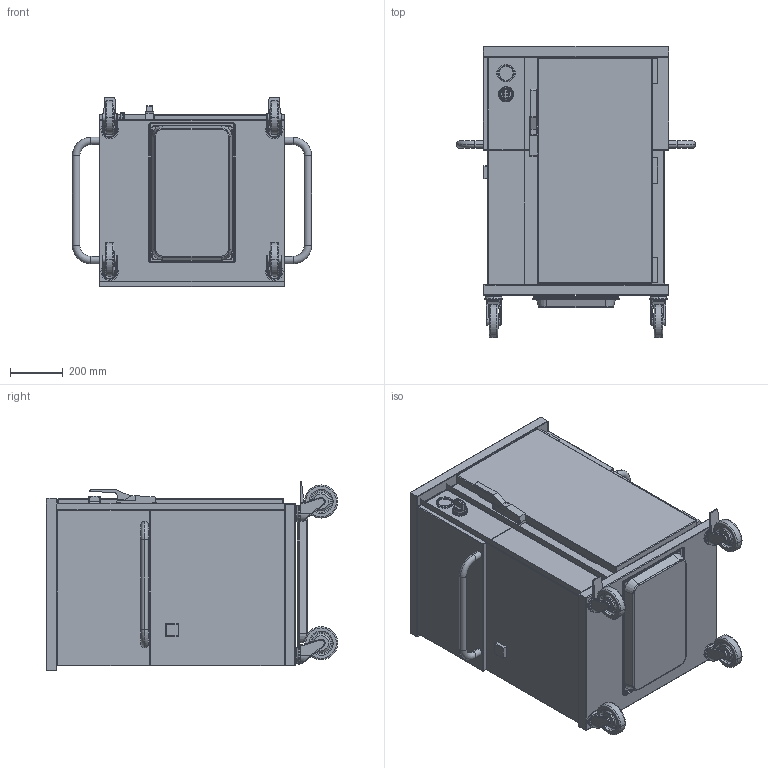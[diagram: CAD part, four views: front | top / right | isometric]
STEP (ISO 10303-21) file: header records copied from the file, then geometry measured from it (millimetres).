
FILE_DESCRIPTION((''),'2;1');
FILE_NAME('CTFE710CTE_EXPORT_STEP_ASM','2019-04-03T11:39:11',('r.avril'),(''),'CREO PARAMETRIC BY PTC INC, 2017260','CREO PARAMETRIC BY PTC INC, 2017260','');
FILE_SCHEMA(('AP203_CONFIGURATION_CONTROLLED_3D_DESIGN_OF_MECHANICAL_PARTS_AND_ASSEMBLIES_MIM_LF { 1 0 10303 403 2 1 2 }'));
Length unit declared in the file: millimetre
Products named in the file (8): CTFE710CTE_EXPORT_STEP; 65149010; 65149009; MANETTE_AMB_EXPORT_STEP; 65224012; 6532023POIGNEE; 6532645; CTFE710CTE_EXPORT_STEP_ASM
Assembly tree (9 placements, depth 2):
  CTFE710CTE_EXPORT_STEP_ASM
    CTFE710CTE_EXPORT_STEP
    65149010  x2
    65149009  x2
    MANETTE_AMB_EXPORT_STEP
    65224012
    6532023POIGNEE
    6532645
Bounding box: 903 x 1100 x 714.5 mm (x, y, z)
Volume: 398034263.3 mm3; surface area: 7318247.1 mm2
Topology: 11 solids, 11 shells, 874 faces, 1998 edges, 1195 vertices
Faces by surface type: cylinder 351, plane 301, torus 106, cone 50, sphere 46, bspline 20
Entity records: 23789 total; most frequent: CARTESIAN_POINT 4698, DIRECTION 3682, ORIENTED_EDGE 3132, EDGE_CURVE 1566, AXIS2_PLACEMENT_3D 1431, VERTEX_POINT 933, VECTOR 796, LINE 796
